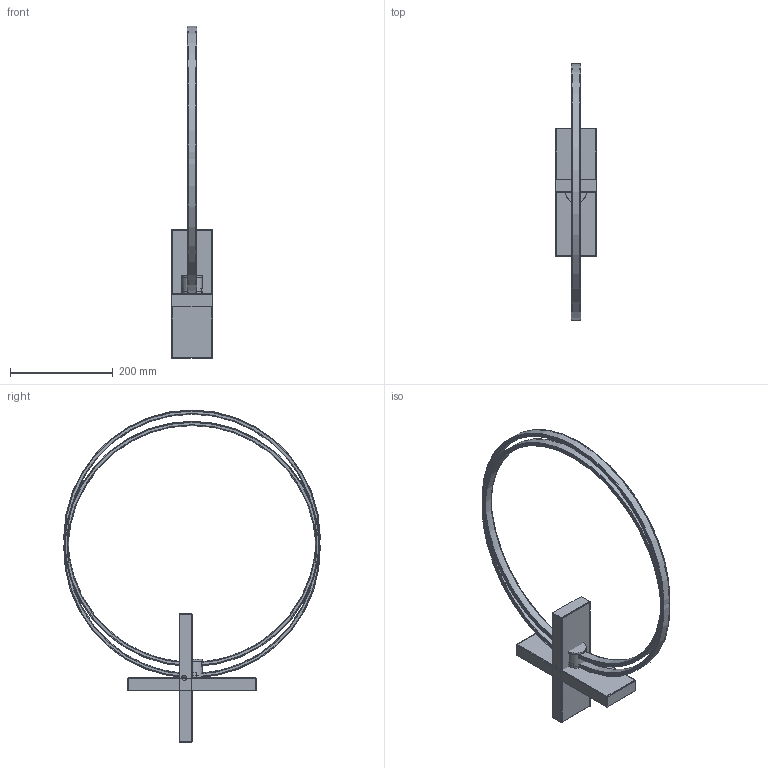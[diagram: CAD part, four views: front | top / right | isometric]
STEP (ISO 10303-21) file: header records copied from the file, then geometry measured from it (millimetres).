
FILE_DESCRIPTION( ( 'STEP AP203' ), '1' );
FILE_NAME( '//srvbf/BF Disegni/RING/RING-L Lumetto RING.stp', '2020-10-15T14:01:34', ( ' ' ), ( ' ' ), 'XStep 1.0', ' ', ' ' );
FILE_SCHEMA( ( 'CONFIG_CONTROL_DESIGN) ( )' ) );
Length unit declared in the file: metre
Products named in the file (6): Assem1; 1; 2; 3; 4; 5
Bounding box: 80 x 499.94 x 647 mm (x, y, z)
Volume: 280569.1 mm3; surface area: 523235.5 mm2
Topology: 10 solids, 10 shells, 312 faces, 810 edges, 526 vertices
Faces by surface type: plane 150, torus 92, cylinder 70
Full cylindrical faces by diameter (mm): 3.242 x4, 5 x4, 8.917 x2, 10 x6, 15 x2, 40 x4
Entity records: 5546 total; most frequent: CARTESIAN_POINT 1567, ORIENTED_EDGE 780, DIRECTION 754, EDGE_CURVE 390, AXIS2_PLACEMENT_3D 298, VERTEX_POINT 259, EDGE_LOOP 181, FACE_OUTER_BOUND 167
